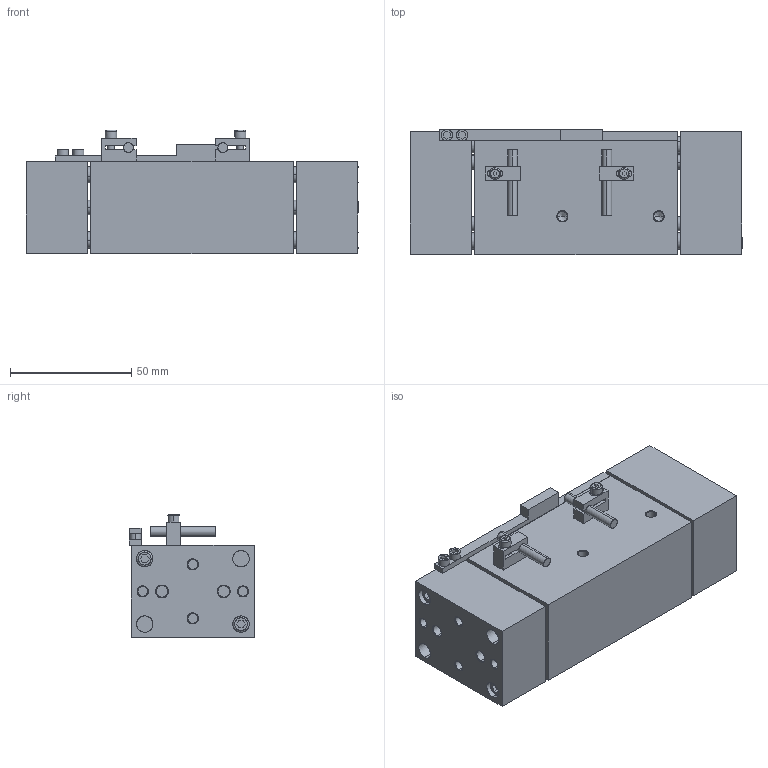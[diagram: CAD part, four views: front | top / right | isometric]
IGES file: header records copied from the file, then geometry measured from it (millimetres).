
Start section: SolidWorks IGES file using analytic representation for surfaces
Global section: file name: C:\Users\jmkuhnes\Pictures\AGW\AGW-375-2\AGW-375-2 CLOSED in MM.IGS; native system: SolidWorks 2013; preprocessor: SolidWorks 2013; author: jmkuhnes; date: 141103.101750; units: millimetre
Bounding box: 136.65 x 51.51 x 50.8 mm (x, y, z)
Surface area: 67583.2 mm2 (no closed solid volume)
Topology: 0 solids, 0 shells, 396 faces, 5588 edges, 5568 vertices
Faces by surface type: revolution 226, bspline 170
